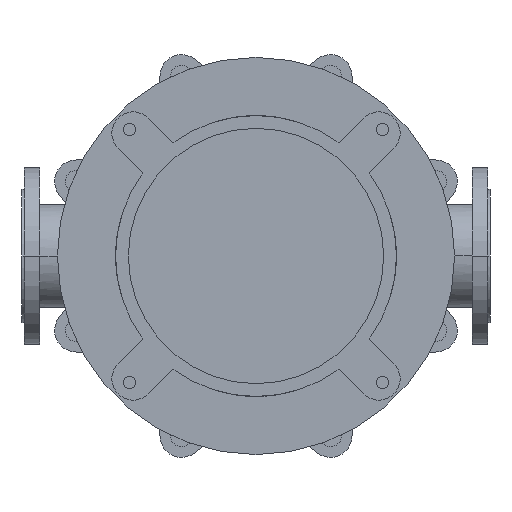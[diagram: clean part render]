
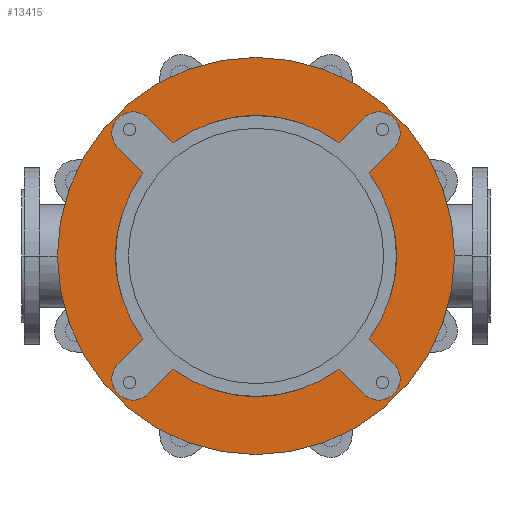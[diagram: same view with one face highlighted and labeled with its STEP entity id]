
A CAD part, front view. The second image highlights one B-rep face of the part: STEP entity #13415.
In plain terms, the highlighted planar face has unit normal (0, -1, 0).
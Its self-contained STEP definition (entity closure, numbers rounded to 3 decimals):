
#3018=CARTESIAN_POINT('',(0.,-25.,0.));
#3019=DIRECTION('',(0.,1.,0.));
#3020=DIRECTION('',(0.592,0.,-0.806));
#3021=AXIS2_PLACEMENT_3D('',#3018,#3019,#3020);
#3036=CARTESIAN_POINT('',(0.,-25.,0.));
#3037=DIRECTION('',(0.,1.,0.));
#3038=DIRECTION('',(0.806,0.,0.592));
#3039=AXIS2_PLACEMENT_3D('',#3036,#3037,#3038);
#3063=CARTESIAN_POINT('',(0.,-25.,0.));
#3064=DIRECTION('',(0.,1.,0.));
#3065=DIRECTION('',(-0.806,0.,-0.592));
#3066=AXIS2_PLACEMENT_3D('',#3063,#3064,#3065);
#3072=CARTESIAN_POINT('',(0.,-25.,0.));
#3073=DIRECTION('',(0.,1.,0.));
#3074=DIRECTION('',(-0.592,0.,0.806));
#3075=AXIS2_PLACEMENT_3D('',#3072,#3073,#3074);
#3250=CARTESIAN_POINT('',(0.,-25.,0.));
#3251=DIRECTION('',(0.,-1.,0.));
#3252=DIRECTION('',(-1.,0.,0.));
#3253=AXIS2_PLACEMENT_3D('',#3250,#3251,#3252);
#3255=CARTESIAN_POINT('',(0.,-25.,0.));
#3256=DIRECTION('',(0.,1.,0.));
#3257=DIRECTION('',(-1.,0.,0.));
#3258=AXIS2_PLACEMENT_3D('',#3255,#3256,#3257);
#3260=CARTESIAN_POINT('',(-173.241,-25.,173.241));
#3261=DIRECTION('',(0.,-1.,0.));
#3262=DIRECTION('',(0.707,0.,0.707));
#3263=AXIS2_PLACEMENT_3D('',#3260,#3261,#3262);
#3265=DIRECTION('',(0.707,0.,-0.707));
#3266=VECTOR('',#3265,49.286);
#3267=CARTESIAN_POINT('',(-194.454,-25.,152.028));
#3268=LINE('',#3267,#3266);
#3269=DIRECTION('',(-0.707,0.,-0.707));
#3270=VECTOR('',#3269,49.286);
#3271=CARTESIAN_POINT('',(-159.604,-25.,-117.178));
#3272=LINE('',#3271,#3270);
#3273=CARTESIAN_POINT('',(-173.241,-25.,-173.241));
#3274=DIRECTION('',(0.,-1.,0.));
#3275=DIRECTION('',(-0.707,0.,0.707));
#3276=AXIS2_PLACEMENT_3D('',#3273,#3274,#3275);
#3278=DIRECTION('',(0.707,0.,0.707));
#3279=VECTOR('',#3278,49.286);
#3280=CARTESIAN_POINT('',(-152.028,-25.,-194.454));
#3281=LINE('',#3280,#3279);
#3282=DIRECTION('',(0.707,0.,-0.707));
#3283=VECTOR('',#3282,49.286);
#3284=CARTESIAN_POINT('',(117.178,-25.,-159.604));
#3285=LINE('',#3284,#3283);
#3286=CARTESIAN_POINT('',(173.241,-25.,-173.241));
#3287=DIRECTION('',(0.,-1.,0.));
#3288=DIRECTION('',(-0.707,0.,-0.707));
#3289=AXIS2_PLACEMENT_3D('',#3286,#3287,#3288);
#3291=DIRECTION('',(-0.707,0.,0.707));
#3292=VECTOR('',#3291,49.286);
#3293=CARTESIAN_POINT('',(194.454,-25.,-152.028));
#3294=LINE('',#3293,#3292);
#3295=DIRECTION('',(0.707,0.,0.707));
#3296=VECTOR('',#3295,49.286);
#3297=CARTESIAN_POINT('',(159.604,-25.,117.178));
#3298=LINE('',#3297,#3296);
#3299=CARTESIAN_POINT('',(173.241,-25.,173.241));
#3300=DIRECTION('',(0.,-1.,0.));
#3301=DIRECTION('',(0.707,0.,-0.707));
#3302=AXIS2_PLACEMENT_3D('',#3299,#3300,#3301);
#3304=DIRECTION('',(-0.707,0.,-0.707));
#3305=VECTOR('',#3304,49.286);
#3306=CARTESIAN_POINT('',(152.028,-25.,194.454));
#3307=LINE('',#3306,#3305);
#3308=DIRECTION('',(-0.707,0.,0.707));
#3309=VECTOR('',#3308,49.286);
#3310=CARTESIAN_POINT('',(-117.178,-25.,159.604));
#3311=LINE('',#3310,#3309);
#8383=CARTESIAN_POINT('',(-280.,-25.,0.));
#8384=CARTESIAN_POINT('',(280.,-25.,0.));
#8385=VERTEX_POINT('',#8383);
#8386=VERTEX_POINT('',#8384);
#8407=CARTESIAN_POINT('',(-194.454,-25.,-152.028));
#8408=CARTESIAN_POINT('',(-152.028,-25.,-194.454));
#8409=VERTEX_POINT('',#8407);
#8410=VERTEX_POINT('',#8408);
#8411=CARTESIAN_POINT('',(-117.178,-25.,-159.604));
#8412=VERTEX_POINT('',#8411);
#8413=CARTESIAN_POINT('',(-159.604,-25.,-117.178));
#8414=VERTEX_POINT('',#8413);
#8423=CARTESIAN_POINT('',(152.028,-25.,-194.454));
#8424=CARTESIAN_POINT('',(194.454,-25.,-152.028));
#8425=VERTEX_POINT('',#8423);
#8426=VERTEX_POINT('',#8424);
#8427=CARTESIAN_POINT('',(159.604,-25.,-117.178));
#8428=VERTEX_POINT('',#8427);
#8429=CARTESIAN_POINT('',(117.178,-25.,-159.604));
#8430=VERTEX_POINT('',#8429);
#8439=CARTESIAN_POINT('',(194.454,-25.,152.028));
#8440=CARTESIAN_POINT('',(152.028,-25.,194.454));
#8441=VERTEX_POINT('',#8439);
#8442=VERTEX_POINT('',#8440);
#8443=CARTESIAN_POINT('',(117.178,-25.,159.604));
#8444=VERTEX_POINT('',#8443);
#8445=CARTESIAN_POINT('',(159.604,-25.,117.178));
#8446=VERTEX_POINT('',#8445);
#8455=CARTESIAN_POINT('',(-152.028,-25.,194.454));
#8456=CARTESIAN_POINT('',(-194.454,-25.,152.028));
#8457=VERTEX_POINT('',#8455);
#8458=VERTEX_POINT('',#8456);
#8459=CARTESIAN_POINT('',(-159.604,-25.,117.178));
#8460=VERTEX_POINT('',#8459);
#8461=CARTESIAN_POINT('',(-117.178,-25.,159.604));
#8462=VERTEX_POINT('',#8461);
#13375=CARTESIAN_POINT('',(0.,-25.,0.));
#13376=DIRECTION('',(0.,-1.,0.));
#13377=DIRECTION('',(-1.,0.,0.));
#13378=AXIS2_PLACEMENT_3D('',#13375,#13376,#13377);
#13379=PLANE('',#13378);
#13381=ORIENTED_EDGE('',*,*,#13380,.F.);
#13383=ORIENTED_EDGE('',*,*,#13382,.T.);
#13384=EDGE_LOOP('',(#13381,#13383));
#13385=FACE_OUTER_BOUND('',#13384,.F.);
#13387=ORIENTED_EDGE('',*,*,#13386,.T.);
#13389=ORIENTED_EDGE('',*,*,#13388,.T.);
#13390=ORIENTED_EDGE('',*,*,#13328,.F.);
#13392=ORIENTED_EDGE('',*,*,#13391,.T.);
#13394=ORIENTED_EDGE('',*,*,#13393,.T.);
#13396=ORIENTED_EDGE('',*,*,#13395,.T.);
#13397=ORIENTED_EDGE('',*,*,#13281,.F.);
#13398=ORIENTED_EDGE('',*,*,#13365,.T.);
#13400=ORIENTED_EDGE('',*,*,#13399,.T.);
#13402=ORIENTED_EDGE('',*,*,#13401,.T.);
#13403=ORIENTED_EDGE('',*,*,#13302,.F.);
#13405=ORIENTED_EDGE('',*,*,#13404,.T.);
#13407=ORIENTED_EDGE('',*,*,#13406,.T.);
#13409=ORIENTED_EDGE('',*,*,#13408,.T.);
#13410=ORIENTED_EDGE('',*,*,#13346,.F.);
#13412=ORIENTED_EDGE('',*,*,#13411,.T.);
#13413=EDGE_LOOP('',(#13387,#13389,#13390,#13392,#13394,#13396,#13397,#13398,
#13400,#13402,#13403,#13405,#13407,#13409,#13410,#13412));
#13414=FACE_BOUND('',#13413,.F.);
#13415=ADVANCED_FACE('',(#13385,#13414),#13379,.T.);
#3022=CIRCLE('',#3021,198.);
#3040=CIRCLE('',#3039,198.);
#3067=CIRCLE('',#3066,198.);
#3076=CIRCLE('',#3075,198.);
#3254=CIRCLE('',#3253,280.);
#3259=CIRCLE('',#3258,280.);
#3264=CIRCLE('',#3263,30.);
#3277=CIRCLE('',#3276,30.);
#3290=CIRCLE('',#3289,30.);
#3303=CIRCLE('',#3302,30.);
#13281=EDGE_CURVE('',#8430,#8412,#3022,.T.);
#13302=EDGE_CURVE('',#8446,#8428,#3040,.T.);
#13328=EDGE_CURVE('',#8414,#8460,#3067,.T.);
#13346=EDGE_CURVE('',#8462,#8444,#3076,.T.);
#13365=EDGE_CURVE('',#8430,#8425,#3285,.T.);
#13380=EDGE_CURVE('',#8385,#8386,#3254,.T.);
#13382=EDGE_CURVE('',#8385,#8386,#3259,.T.);
#13386=EDGE_CURVE('',#8457,#8458,#3264,.T.);
#13388=EDGE_CURVE('',#8458,#8460,#3268,.T.);
#13391=EDGE_CURVE('',#8414,#8409,#3272,.T.);
#13393=EDGE_CURVE('',#8409,#8410,#3277,.T.);
#13395=EDGE_CURVE('',#8410,#8412,#3281,.T.);
#13399=EDGE_CURVE('',#8425,#8426,#3290,.T.);
#13401=EDGE_CURVE('',#8426,#8428,#3294,.T.);
#13404=EDGE_CURVE('',#8446,#8441,#3298,.T.);
#13406=EDGE_CURVE('',#8441,#8442,#3303,.T.);
#13408=EDGE_CURVE('',#8442,#8444,#3307,.T.);
#13411=EDGE_CURVE('',#8462,#8457,#3311,.T.);
